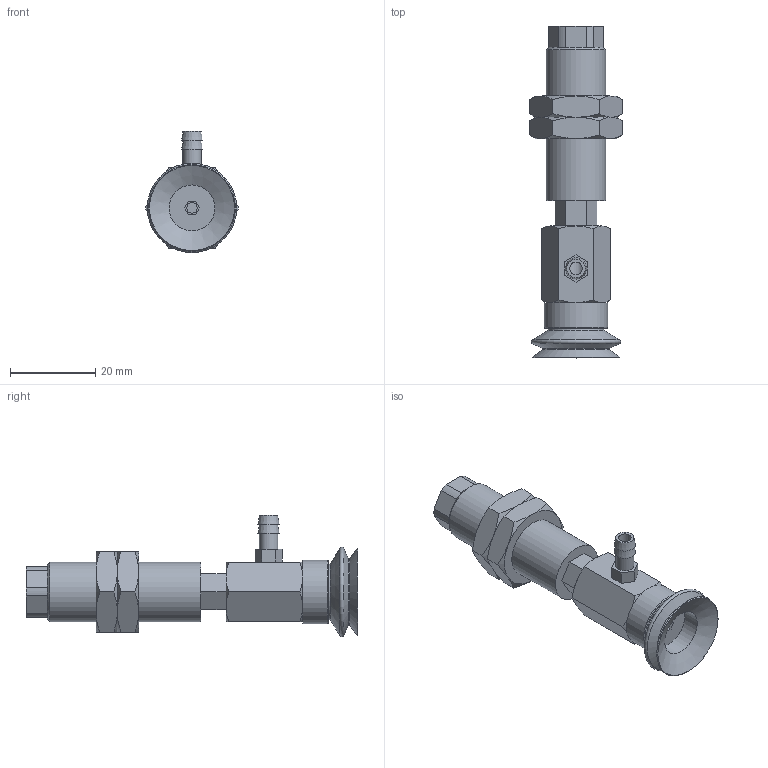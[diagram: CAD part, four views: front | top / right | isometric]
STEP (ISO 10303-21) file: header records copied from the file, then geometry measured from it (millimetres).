
FILE_DESCRIPTION(('STEP AP203'),'1');
FILE_NAME('-T.stp','2025-04-24T06:56:39',(' '),(' '),'Spatial InterOp 3D',' ',' ');
FILE_SCHEMA(('CONFIG_CONTROL_DESIGN'));
Length unit declared in the file: millimetre
Products named in the file (8): BNABPJYH-20-6-※-T; Adapter-20-NAPJ; CONNECTOR_H-20-6; NAPJH-20-6-NUT; NAPJTH-20-6-FBODY; NAPJTH-20-6-MBODY; BPJG-20-※; T
Assembly tree (8 placements, depth 2):
  BNABPJYH-20-6-※-T
    Adapter-20-NAPJ
    CONNECTOR_H-20-6
    NAPJH-20-6-NUT  x2
    NAPJTH-20-6-FBODY
    NAPJTH-20-6-MBODY
    BPJG-20-※
    T
Bounding box: 21.94 x 78 x 28.5 mm (x, y, z)
Volume: 12891.5 mm3; surface area: 10680.5 mm2
Topology: 8 solids, 8 shells, 171 faces, 375 edges, 232 vertices
Faces by surface type: plane 84, cone 57, cylinder 23, torus 7
Full cylindrical faces by diameter (mm): 2.5 x1, 3 x2, 4.134 x3, 4.3 x1, 4.6 x1, 5 x3, 10.8 x1, 11 x1, 13.188 x2, 14 x1, 15 x1
Entity records: 4464 total; most frequent: CARTESIAN_POINT 999, DIRECTION 640, ORIENTED_EDGE 558, EDGE_CURVE 279, AXIS2_PLACEMENT_3D 256, EDGE_LOOP 214, VERTEX_POINT 197, FACE_OUTER_BOUND 171
